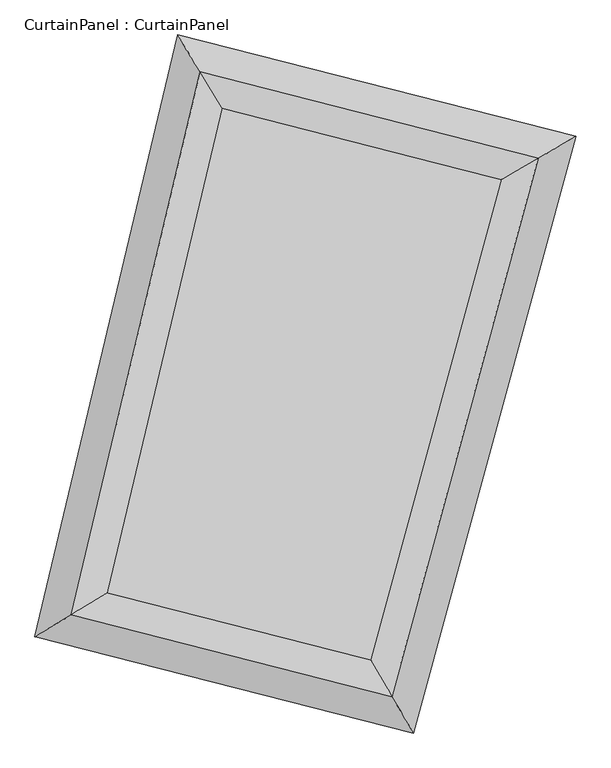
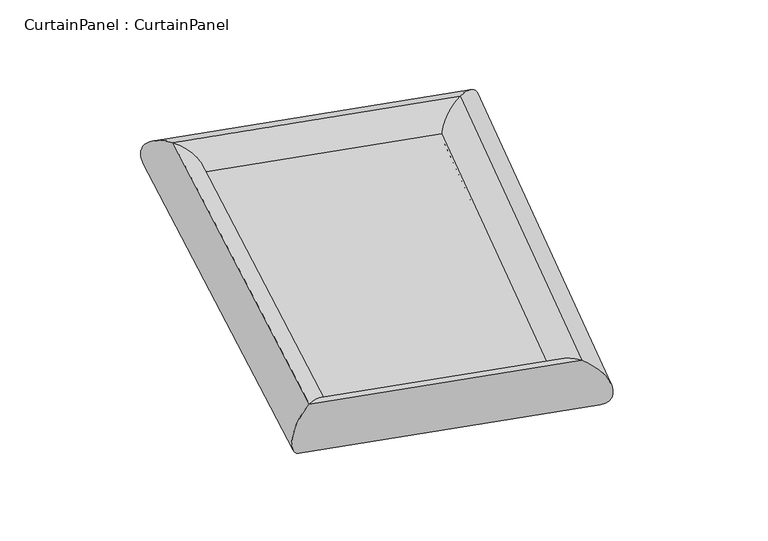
"""IFC4 building model written with IfcOpenShell, lengths in millimetres: plate geometry, CurtainPanel : CurtainPanel."""

from ifc_helpers import new_model, si_unit, frame, origin, origin_with_axes, place, context, project, spatial, polyline, ellipse_curve, outline, extrude, source, transform, mapped, element, save
from ifc_brep_helpers import cylinder_surface, advanced_brep


def curtainpanel_curtainpanel_73175d91(model_context):
    return source(origin(), model_context, "Body", "SolidModel", [
        extrude(outline(polyline([(2903.4351313, 2903.4351313), (3840.5007063, 6851.7408573), (6304.7712109, 6224.214733), (5239.2929514, 2308.6092783), (2903.4351313, 2903.4351313)])), origin_with_axes(), (0.0, 0.0, 1.0), 20.0),
        advanced_brep(
        [(2903.4351313, 2903.4351313, -220.0), (2903.4351313, 2903.4351313, 220.0), (5239.2929514, 2308.6092783, 220.0), (5239.2929514, 2308.6092783, -220.0), (6304.7712109, 6224.214733, 220.0), (6304.7712109, 6224.214733, -220.0), (3840.5007063, 6851.7408573, 220.0), (3840.5007063, 6851.7408573, -220.0)],
        [
            (0, 1, ellipse_curve(frame((2903.4351313, 2903.4351313, 0.0), z_axis=(0.5177440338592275, -0.8555355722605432, 0.0), x_axis=(-0.8555355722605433, -0.5177440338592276, 0.0)), 308.6177542, 220.0)),
            (1, 2),
            (2, 3, ellipse_curve(frame((5239.2929514, 2308.6092783, 0.0), z_axis=(-0.8638748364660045, -0.5037065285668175, 0.0), x_axis=(-0.5037065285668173, 0.8638748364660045, 0.0)), 308.6177542, 220.0)),
            (3, 0),
            (1, 0, ellipse_curve(frame((2903.4351313, 2903.4351313, 0.0), z_axis=(0.5177440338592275, -0.8555355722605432, 0.0), x_axis=(-0.8555355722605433, -0.5177440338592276, 0.0)), 308.6177542, 220.0)),
            (3, 2, ellipse_curve(frame((5239.2929514, 2308.6092783, 0.0), z_axis=(-0.8638748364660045, -0.5037065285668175, 0.0), x_axis=(-0.5037065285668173, 0.8638748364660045, 0.0)), 308.6177542, 220.0)),
            (2, 4),
            (4, 5, ellipse_curve(frame((6304.7712109, 6224.214733, 0.0), z_axis=(0.5037065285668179, -0.8638748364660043, 0.0), x_axis=(-0.8638748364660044, -0.5037065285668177, 0.0)), 313.6984299, 220.0)),
            (5, 3),
            (5, 4, ellipse_curve(frame((6304.7712109, 6224.214733, 0.0), z_axis=(0.5037065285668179, -0.8638748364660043, 0.0), x_axis=(-0.8638748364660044, -0.5037065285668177, 0.0)), 313.6984299, 220.0)),
            (4, 6),
            (6, 7, ellipse_curve(frame((3840.5007063, 6851.7408573, 0.0), z_axis=(0.8555355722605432, 0.5177440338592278, 0.0), x_axis=(0.5177440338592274, -0.8555355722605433, 0.0)), 313.6984299, 220.0)),
            (7, 5),
            (7, 6, ellipse_curve(frame((3840.5007063, 6851.7408573, 0.0), z_axis=(0.8555355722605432, 0.5177440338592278, 0.0), x_axis=(0.5177440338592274, -0.8555355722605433, 0.0)), 313.6984299, 220.0)),
            (6, 1),
            (0, 7),
        ],
        [
            cylinder_surface(frame((2903.4351313, 2903.4351313, 0.0), z_axis=(-0.9690729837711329, 0.2467742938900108, 0.0), x_axis=(0.2467742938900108, 0.9690729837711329, 0.0)), 220.0),
            cylinder_surface(frame((5239.2929514, 2308.6092783, 0.0), z_axis=(-0.2625636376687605, -0.9649146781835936, 0.0), x_axis=(-0.9649146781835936, 0.2625636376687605, 0.0)), 220.0),
            cylinder_surface(frame((6304.7712109, 6224.214733, 0.0), z_axis=(0.9690729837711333, -0.24677429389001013, 0.0), x_axis=(-0.24677429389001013, -0.9690729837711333, 0.0)), 220.0),
            cylinder_surface(frame((3840.5007063, 6851.7408573, 0.0), z_axis=(0.23091916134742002, 0.972972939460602, 0.0), x_axis=(0.972972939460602, -0.23091916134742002, 0.0)), 220.0),
        ],
        [
            (0, [[1, 2, 3, 4]]),
            (0, [[5, -4, 6, -2]]),
            (1, [[-3, 7, 8, 9]]),
            (1, [[-6, -9, 10, -7]]),
            (2, [[-8, 11, 12, 13]]),
            (2, [[-10, -13, 14, -11]]),
            (3, [[-12, 15, -1, 16]]),
            (3, [[-14, -16, -5, -15]]),
        ],
    ),
    ])


if __name__ == "__main__":
    model = new_model("IFC4")
    model_context = context("Model", 3, world=origin())
    ifc_project = project(units=[si_unit("LENGTHUNIT", "METRE", prefix="MILLI")], contexts=[model_context])
    site = spatial("IfcSite", under=ifc_project)
    building = spatial("IfcBuilding", under=site)
    placement = place(None, origin())
    curtainpanel_curtainpanel_shape = curtainpanel_curtainpanel_73175d91(model_context)
    element("IfcPlate", 1, ObjectType="CurtainPanel : CurtainPanel", at=placement, inside=building, context=model_context, shape_type="MappedRepresentation", body=[
        mapped(curtainpanel_curtainpanel_shape, transform((0.0, 0.0, 0.0), x_axis=(1.0, 0.0, 0.0), y_axis=(0.0, 1.0, 0.0), z_axis=(0.0, 0.0, 1.0))),
    ])
    save(model, "model.ifc")
